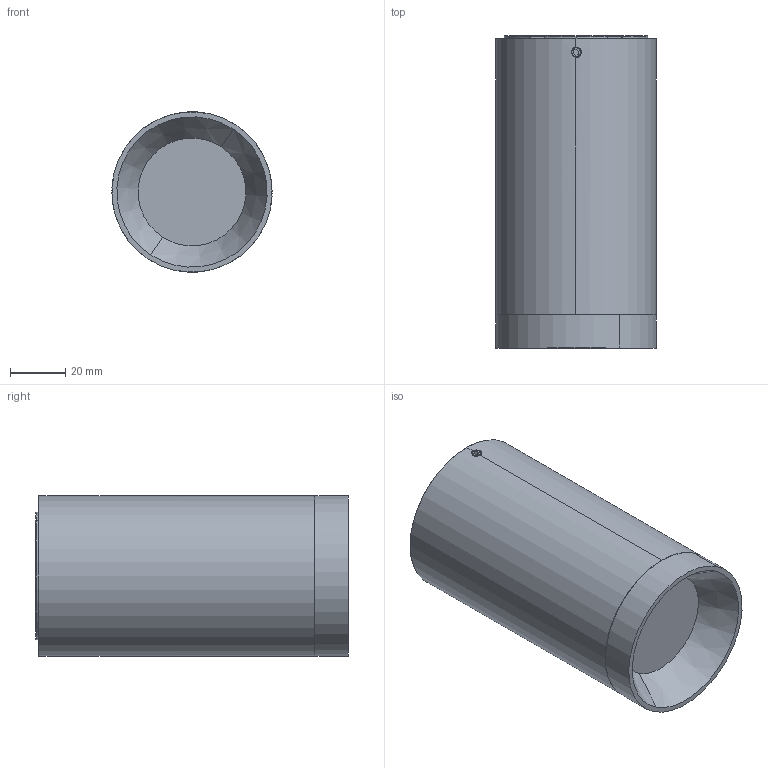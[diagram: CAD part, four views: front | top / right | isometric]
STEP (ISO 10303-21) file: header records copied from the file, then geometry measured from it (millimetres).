
FILE_DESCRIPTION(/* description */ (''),/* implementation_level */ '2;1');
FILE_NAME(/* name */ 'puk_58_ceiling.step',/* time_stamp */ '2025-02-20T17:19:28+01:00',/* author */ ('RenataManzini'),/* organization */ (''),/* preprocessor_version */ 'ST-DEVELOPER v20',/* originating_system */ 'AutoCAD Mechanical',/* authorisation */ '');
FILE_SCHEMA (('AUTOMOTIVE_DESIGN { 1 0 10303 214 3 1 1 }'));
Length unit declared in the file: millimetre
Products named in the file (11): Product; IP67·ÀË®Èû(¦Õ5-10); M4x5È«ÑÀÄÚÁù½Ç¼âÎ
²ÂÝË¿£¨²»Ðâ¸Ö£
©; M3X6Ô²Í·ÄÚÁù½Ç
ÂÝË¿; Îü¶¥¸Ç; P1Ô¤Âñ¼þÁ¬·ÀË
®È¦-R01; 4.5WÎü¶¥µÆÃæ¸Ç
-ÄÚ°¼; µÆÌå; 4.5WÎü¶¥µÆ²£Á§
-ÄÚ°¼; FSC-0041·ÀË®È¦; 44Í¸¾µ30¶È-Åä1304¹
âÔ´Ð¡Ö§¼Ü
Assembly tree (13 placements, depth 2):
  Product
    IP67·ÀË®Èû(¦Õ5-10)
    P1Ô¤Âñ¼þÁ¬·ÀË
®È¦-R01  x2
    M3X6Ô²Í·ÄÚÁù½Ç
ÂÝË¿  x2
    M4x5È«ÑÀÄÚÁù½Ç¼âÎ
²ÂÝË¿£¨²»Ðâ¸Ö£
©  x2
    Îü¶¥¸Ç
    4.5WÎü¶¥µÆÃæ¸Ç
-ÄÚ°¼
    µÆÌå
    4.5WÎü¶¥µÆ²£Á§
-ÄÚ°¼
    FSC-0041·ÀË®È¦
    44Í¸¾µ30¶È-Åä1304¹
âÔ´Ð¡Ö§¼Ü
Bounding box: 58 x 113 x 58 mm (x, y, z)
Volume: 105231.4 mm3; surface area: 73150.7 mm2
Topology: 13 solids, 13 shells, 1813 faces, 4514 edges, 2752 vertices
Faces by surface type: sphere 764, torus 684, cylinder 138, plane 122, cone 69, bspline 36
Entity records: 61094 total; most frequent: CARTESIAN_POINT 16272, DIRECTION 11413, ORIENTED_EDGE 8776, AXIS2_PLACEMENT_3D 5566, EDGE_CURVE 4388, CIRCLE 3812, VERTEX_POINT 2679, EDGE_LOOP 1811
